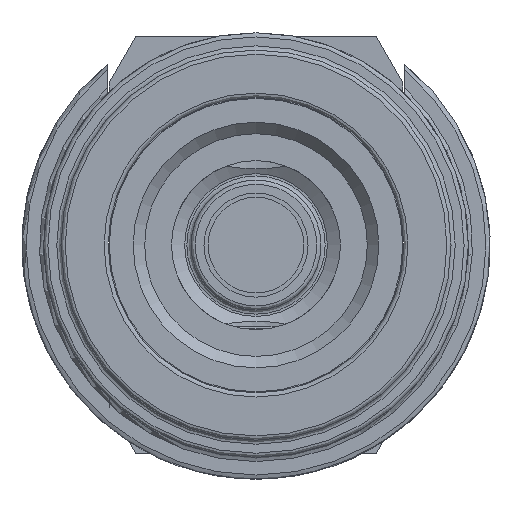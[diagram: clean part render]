
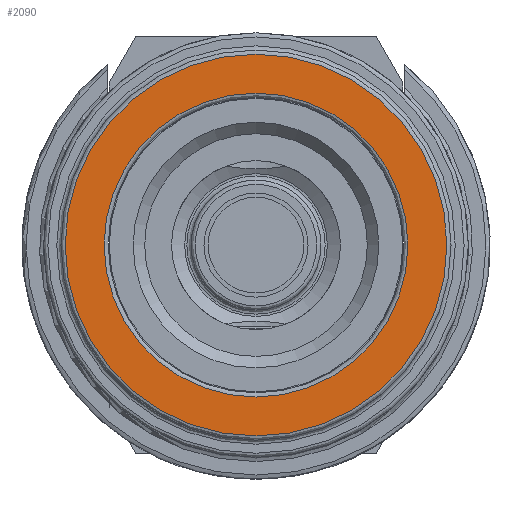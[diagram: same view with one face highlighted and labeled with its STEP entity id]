
A CAD part, front view. The second image highlights one B-rep face of the part: STEP entity #2090.
In plain terms, the highlighted planar face has unit normal (0, -1, 0).
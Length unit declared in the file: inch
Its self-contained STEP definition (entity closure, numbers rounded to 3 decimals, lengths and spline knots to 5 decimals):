
#419=FACE_BOUND('',#575,.T.);
#456=FACE_OUTER_BOUND('',#574,.T.);
#574=EDGE_LOOP('',(#1479,#1480));
#575=EDGE_LOOP('',(#1481,#1482));
#718=CIRCLE('',#2287,0.365);
#719=CIRCLE('',#2288,0.365);
#721=CIRCLE('',#2291,0.4585);
#722=CIRCLE('',#2292,0.4585);
#871=VERTEX_POINT('',#3347);
#872=VERTEX_POINT('',#3349);
#873=VERTEX_POINT('',#3354);
#874=VERTEX_POINT('',#3355);
#1109=EDGE_CURVE('',#871,#872,#718,.T.);
#1110=EDGE_CURVE('',#872,#871,#719,.T.);
#1112=EDGE_CURVE('',#873,#874,#721,.T.);
#1113=EDGE_CURVE('',#874,#873,#722,.T.);
#1479=ORIENTED_EDGE('',*,*,#1112,.F.);
#1480=ORIENTED_EDGE('',*,*,#1113,.F.);
#1481=ORIENTED_EDGE('',*,*,#1110,.F.);
#1482=ORIENTED_EDGE('',*,*,#1109,.F.);
#2024=PLANE('',#2290);
#2090=ADVANCED_FACE('',(#456,#419),#2024,.T.);
#2287=AXIS2_PLACEMENT_3D('',#3350,#2632,#2633);
#2288=AXIS2_PLACEMENT_3D('',#3351,#2634,#2635);
#2290=AXIS2_PLACEMENT_3D('',#3353,#2638,#2639);
#2291=AXIS2_PLACEMENT_3D('',#3356,#2640,#2641);
#2292=AXIS2_PLACEMENT_3D('',#3357,#2642,#2643);
#2632=DIRECTION('center_axis',(0.,-1.,0.));
#2633=DIRECTION('ref_axis',(0.,0.,1.));
#2634=DIRECTION('center_axis',(0.,-1.,0.));
#2635=DIRECTION('ref_axis',(0.,0.,1.));
#2638=DIRECTION('center_axis',(0.,-1.,0.));
#2639=DIRECTION('ref_axis',(0.,0.,-1.));
#2640=DIRECTION('center_axis',(0.,1.,0.));
#2641=DIRECTION('ref_axis',(0.,0.,1.));
#2642=DIRECTION('center_axis',(0.,1.,0.));
#2643=DIRECTION('ref_axis',(0.,0.,1.));
#3347=CARTESIAN_POINT('',(0.,0.,0.365));
#3349=CARTESIAN_POINT('',(0.,0.,-0.365));
#3350=CARTESIAN_POINT('Origin',(0.,0.,0.));
#3351=CARTESIAN_POINT('Origin',(0.,0.,0.));
#3353=CARTESIAN_POINT('Origin',(0.,0.,-0.355));
#3354=CARTESIAN_POINT('',(0.,0.,-0.4585));
#3355=CARTESIAN_POINT('',(0.,0.,0.4585));
#3356=CARTESIAN_POINT('Origin',(0.,0.,0.));
#3357=CARTESIAN_POINT('Origin',(0.,0.,0.));
